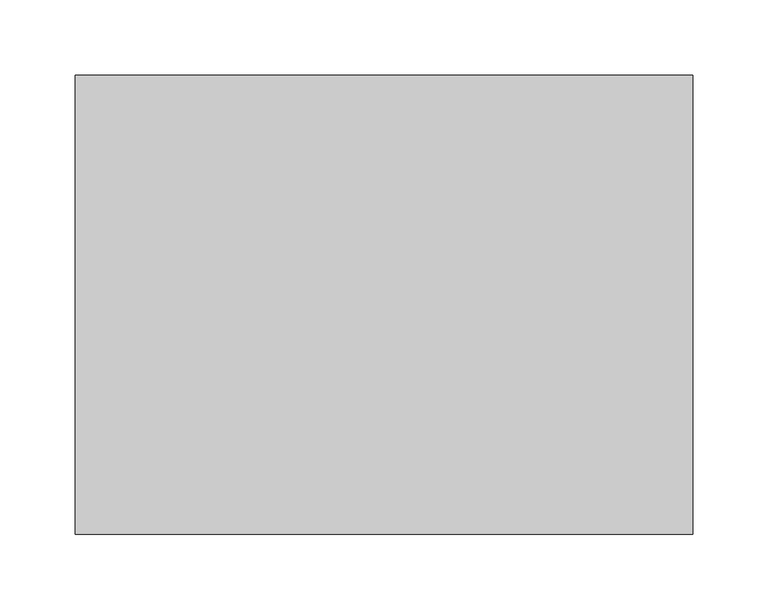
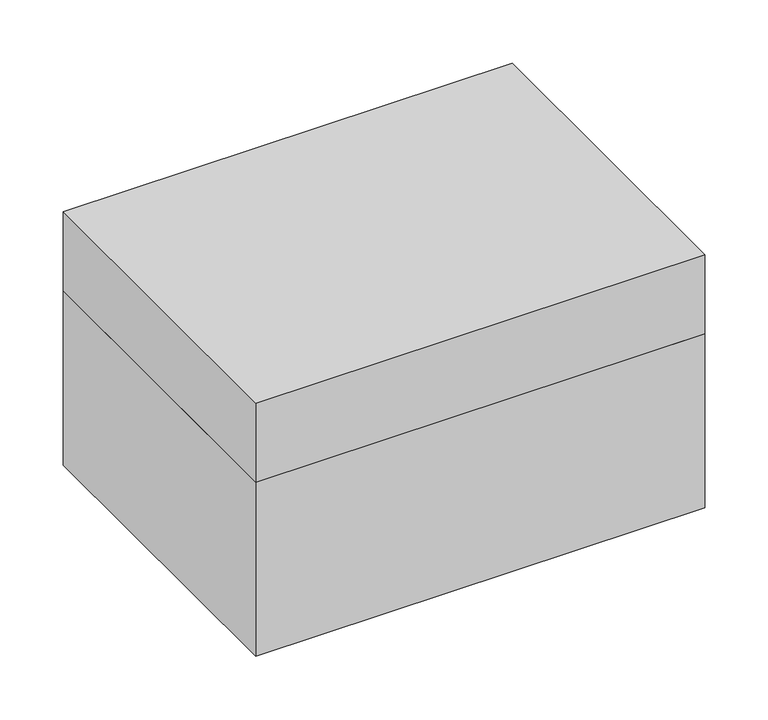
"""IFC4 building model written with IfcOpenShell, lengths in millimetres: cable carrier fitting geometry."""

from ifc_helpers import new_model, si_unit, origin, place, context, project, spatial, faceted_brep, source, transform, mapped, element, save


def cable_carrier_fitting_ef6b51e8(model_context):
    return source(origin(), model_context, "Body", "Brep", [
        faceted_brep([(204.5, 152.0, 244.0), (-204.5, 152.0, 244.0), (-204.5, -152.0, 244.0), (204.5, -152.0, 244.0), (-202.5, -150.0, 242.0), (-202.5, 150.0, 242.0), (202.5, 150.0, 242.0), (202.5, -150.0, 242.0), (204.5, 152.0, 168.0), (204.5, -152.0, 168.0), (-204.5, -152.0, 168.0), (-204.5, 152.0, 168.0), (-202.5, -150.0, 168.0), (202.5, -150.0, 168.0), (202.5, 150.0, 168.0), (-202.5, 150.0, 168.0)], [[[0, 1, 2, 3]], [[4, 5, 6, 7]], [[8, 9, 10, 11], [12, 13, 14, 15]], [[1, 0, 8, 11]], [[2, 1, 11, 10]], [[3, 2, 10, 9]], [[0, 3, 9, 8]], [[12, 15, 5, 4]], [[15, 14, 6, 5]], [[14, 13, 7, 6]], [[13, 12, 4, 7]]]),
        faceted_brep([(-202.5, -150.0, 2.0), (202.5, -150.0, 2.0), (202.5, 150.0, 2.0), (-202.5, 150.0, 2.0), (204.5, 152.0, 0.0), (204.5, -152.0, 0.0), (-204.5, -152.0, 0.0), (-204.5, 152.0, 0.0), (204.5, 152.0, 168.0), (-204.5, 152.0, 168.0), (-204.5, -152.0, 168.0), (204.5, -152.0, 168.0), (202.5, -150.0, 168.0), (-202.5, -150.0, 168.0), (-202.5, 150.0, 168.0), (202.5, 150.0, 168.0)], [[[0, 1, 2, 3]], [[4, 5, 6, 7]], [[8, 9, 10, 11], [12, 13, 14, 15]], [[9, 8, 4, 7]], [[10, 9, 7, 6]], [[11, 10, 6, 5]], [[8, 11, 5, 4]], [[13, 12, 1, 0]], [[14, 13, 0, 3]], [[15, 14, 3, 2]], [[12, 15, 2, 1]]]),
    ])


if __name__ == "__main__":
    model = new_model("IFC4")
    model_context = context("Model", 3, world=origin())
    ifc_project = project(units=[si_unit("LENGTHUNIT", "METRE", prefix="MILLI")], contexts=[model_context])
    site = spatial("IfcSite", under=ifc_project)
    building = spatial("IfcBuilding", under=site)
    placement = place(None, origin())
    cable_carrier_fitting_shape = cable_carrier_fitting_ef6b51e8(model_context)
    element("IfcCableCarrierFitting", 1, at=placement, inside=building, context=model_context, shape_type="MappedRepresentation", body=[
        mapped(cable_carrier_fitting_shape, transform((0.0, 0.0, 0.0), x_axis=(1.0, 0.0, 0.0), y_axis=(0.0, 1.0, 0.0), z_axis=(0.0, 0.0, 1.0))),
    ])
    save(model, "model.ifc")
